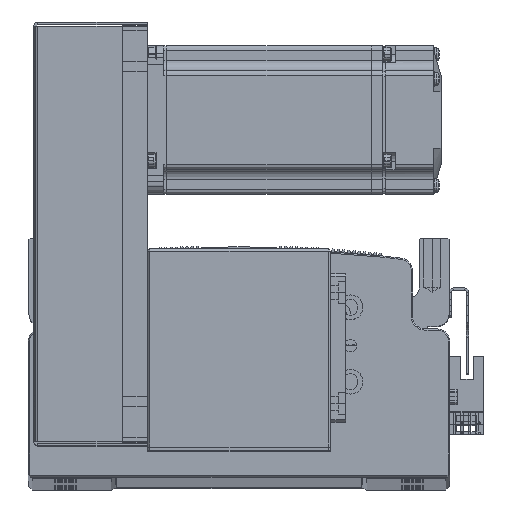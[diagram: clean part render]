
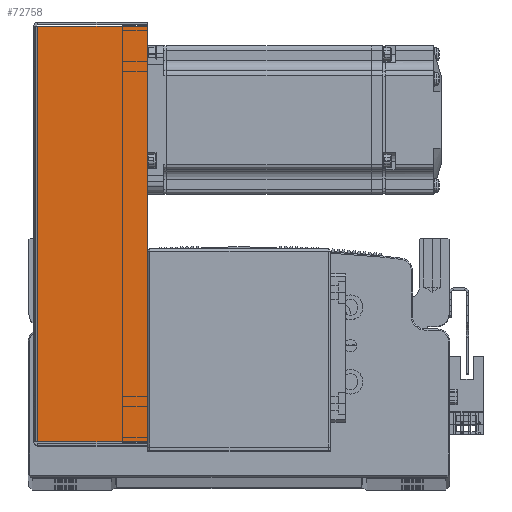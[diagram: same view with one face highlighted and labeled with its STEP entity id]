
A CAD part, top view. The second image highlights one B-rep face of the part: STEP entity #72758.
In plain terms, the highlighted planar face has unit normal (0, 0, 1) as drawn and (0, 0, -1) by its records, which use the part's own axes.
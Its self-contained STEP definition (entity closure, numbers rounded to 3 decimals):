
#1559 = CARTESIAN_POINT ( 'NONE',  ( -83.793, 0.737, -40.5 ) ) ;
#2916 = CARTESIAN_POINT ( 'NONE',  ( 83.793, 45., -40.5 ) ) ;
#2932 = AXIS2_PLACEMENT_3D ( 'NONE', #8672, #8697, #8701 ) ;
#3372 = CARTESIAN_POINT ( 'NONE',  ( -83.793, 45., -40.5 ) ) ;
#6639 = FACE_OUTER_BOUND ( 'NONE', #34354, .T. ) ;
#8672 = CARTESIAN_POINT ( 'NONE',  ( 0., 0., -40.5 ) ) ;
#8697 = DIRECTION ( 'NONE',  ( 0., 0., 1. ) ) ;
#8701 = DIRECTION ( 'NONE',  ( 0., -1., 0. ) ) ;
#8712 = PLANE ( 'NONE',  #2932 ) ;
#13909 = CARTESIAN_POINT ( 'NONE',  ( 83.793, 0.737, -40.5 ) ) ;
#25399 = LINE ( 'NONE', #36856, #25516 ) ;
#25516 = VECTOR ( 'NONE', #36801, 1000. ) ;
#25733 = LINE ( 'NONE', #37109, #25767 ) ;
#25767 = VECTOR ( 'NONE', #37117, 1000. ) ;
#26963 = VERTEX_POINT ( 'NONE', #13909 ) ;
#27493 = VERTEX_POINT ( 'NONE', #1559 ) ;
#28840 = VERTEX_POINT ( 'NONE', #2916 ) ;
#29581 = VERTEX_POINT ( 'NONE', #3372 ) ;
#34354 = EDGE_LOOP ( 'NONE', ( #54498, #54461, #54415, #54340 ) ) ;
#36479 = DIRECTION ( 'NONE',  ( 0., 1., 0. ) ) ;
#36490 = CARTESIAN_POINT ( 'NONE',  ( -83.793, 0., -40.5 ) ) ;
#36767 = CARTESIAN_POINT ( 'NONE',  ( 0., 0.737, -40.5 ) ) ;
#36769 = DIRECTION ( 'NONE',  ( 1., 0., 0. ) ) ;
#36801 = DIRECTION ( 'NONE',  ( 1., 0., 0. ) ) ;
#36856 = CARTESIAN_POINT ( 'NONE',  ( 84.5, 45., -40.5 ) ) ;
#37109 = CARTESIAN_POINT ( 'NONE',  ( 83.793, 0., -40.5 ) ) ;
#37117 = DIRECTION ( 'NONE',  ( 0., 1., 0. ) ) ;
#50318 = LINE ( 'NONE', #36767, #50477 ) ;
#50477 = VECTOR ( 'NONE', #36769, 1000. ) ;
#51172 = LINE ( 'NONE', #36490, #51185 ) ;
#51185 = VECTOR ( 'NONE', #36479, 1000. ) ;
#54340 = ORIENTED_EDGE ( 'NONE', *, *, #56255, .F. ) ;
#54415 = ORIENTED_EDGE ( 'NONE', *, *, #56169, .T. ) ;
#54461 = ORIENTED_EDGE ( 'NONE', *, *, #56071, .T. ) ;
#54498 = ORIENTED_EDGE ( 'NONE', *, *, #56150, .F. ) ;
#56071 = EDGE_CURVE ( 'NONE', #27493, #29581, #51172, .T. ) ;
#56150 = EDGE_CURVE ( 'NONE', #27493, #26963, #50318, .T. ) ;
#56169 = EDGE_CURVE ( 'NONE', #29581, #28840, #25399, .T. ) ;
#56255 = EDGE_CURVE ( 'NONE', #26963, #28840, #25733, .T. ) ;
#72758 = ADVANCED_FACE ( 'NONE', ( #6639 ), #8712, .F. ) ;
